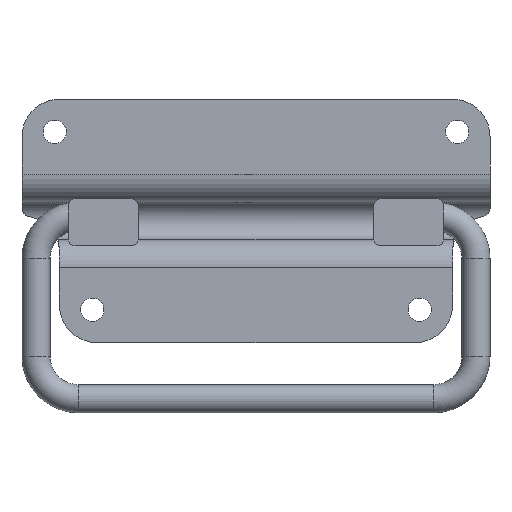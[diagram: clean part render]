
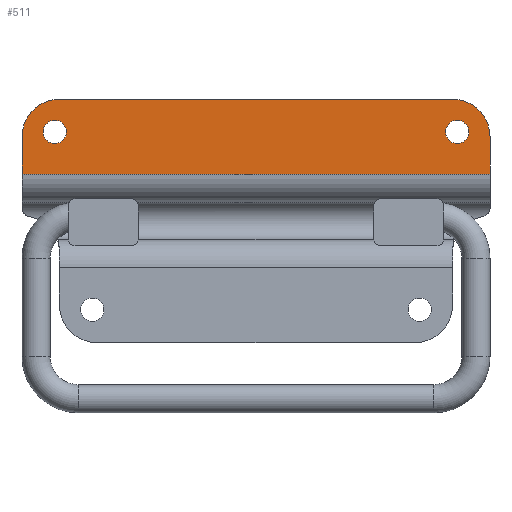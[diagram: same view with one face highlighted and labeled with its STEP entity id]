
A CAD part, front view. The second image highlights one B-rep face of the part: STEP entity #511.
In plain terms, the highlighted planar face has unit normal (0, -1, 0).
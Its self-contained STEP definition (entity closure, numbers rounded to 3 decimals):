
#13 = LINE ( 'NONE', #2613, #2935 ) ;
#26 = VERTEX_POINT ( 'NONE', #3641 ) ;
#53 = VERTEX_POINT ( 'NONE', #3338 ) ;
#81 = DIRECTION ( 'NONE',  ( 0., 0., -1. ) ) ;
#177 = ORIENTED_EDGE ( 'NONE', *, *, #2221, .T. ) ;
#213 = DIRECTION ( 'NONE',  ( 0., -1., 0. ) ) ;
#254 = VERTEX_POINT ( 'NONE', #2013 ) ;
#298 = CARTESIAN_POINT ( 'NONE',  ( -50., -1., 26. ) ) ;
#418 = ORIENTED_EDGE ( 'NONE', *, *, #3855, .F. ) ;
#468 = AXIS2_PLACEMENT_3D ( 'NONE', #679, #3145, #794 ) ;
#472 = CARTESIAN_POINT ( 'NONE',  ( -43., -1., 16.5 ) ) ;
#485 = VERTEX_POINT ( 'NONE', #780 ) ;
#511 = ADVANCED_FACE ( 'NONE', ( #3999, #2253, #581 ), #2598, .T. ) ;
#581 = FACE_OUTER_BOUND ( 'NONE', #1123, .T. ) ;
#678 = ORIENTED_EDGE ( 'NONE', *, *, #1857, .F. ) ;
#679 = CARTESIAN_POINT ( 'NONE',  ( -42., -1., 18. ) ) ;
#706 = CIRCLE ( 'NONE', #1888, 8. ) ;
#756 = ORIENTED_EDGE ( 'NONE', *, *, #2874, .F. ) ;
#758 = EDGE_CURVE ( 'NONE', #26, #3091, #706, .T. ) ;
#780 = CARTESIAN_POINT ( 'NONE',  ( 43., -1., 16.5 ) ) ;
#794 = DIRECTION ( 'NONE',  ( 0., 0., -1. ) ) ;
#816 = DIRECTION ( 'NONE',  ( 0., -1., 0. ) ) ;
#1009 = DIRECTION ( 'NONE',  ( 0., -1., 0. ) ) ;
#1080 = LINE ( 'NONE', #298, #1935 ) ;
#1123 = EDGE_LOOP ( 'NONE', ( #2334, #2709, #2922, #2764, #177, #1744 ) ) ;
#1250 = CARTESIAN_POINT ( 'NONE',  ( 43., -1., 19. ) ) ;
#1259 = DIRECTION ( 'NONE',  ( 0., 0., -1. ) ) ;
#1305 = DIRECTION ( 'NONE',  ( 0., 0., -1. ) ) ;
#1373 = DIRECTION ( 'NONE',  ( 0., 0., -1. ) ) ;
#1374 = EDGE_LOOP ( 'NONE', ( #678, #756 ) ) ;
#1441 = CARTESIAN_POINT ( 'NONE',  ( -43., -1., 19. ) ) ;
#1462 = CIRCLE ( 'NONE', #3593, 2.5 ) ;
#1572 = CIRCLE ( 'NONE', #3196, 2.5 ) ;
#1655 = EDGE_CURVE ( 'NONE', #2061, #3306, #1572, .T. ) ;
#1744 = ORIENTED_EDGE ( 'NONE', *, *, #3990, .T. ) ;
#1857 = EDGE_CURVE ( 'NONE', #4497, #485, #2621, .T. ) ;
#1888 = AXIS2_PLACEMENT_3D ( 'NONE', #3601, #816, #2131 ) ;
#1891 = EDGE_CURVE ( 'NONE', #26, #254, #4510, .T. ) ;
#1935 = VECTOR ( 'NONE', #3532, 1000. ) ;
#2013 = CARTESIAN_POINT ( 'NONE',  ( 50., -1., 10. ) ) ;
#2061 = VERTEX_POINT ( 'NONE', #3648 ) ;
#2073 = DIRECTION ( 'NONE',  ( 0., 0., -1. ) ) ;
#2074 = CARTESIAN_POINT ( 'NONE',  ( 43., -1., 21.5 ) ) ;
#2103 = VECTOR ( 'NONE', #1305, 1000. ) ;
#2131 = DIRECTION ( 'NONE',  ( 0., 0., -1. ) ) ;
#2152 = CARTESIAN_POINT ( 'NONE',  ( -43., -1., 19. ) ) ;
#2178 = CIRCLE ( 'NONE', #3051, 2.5 ) ;
#2221 = EDGE_CURVE ( 'NONE', #53, #4136, #3009, .T. ) ;
#2253 = FACE_BOUND ( 'NONE', #2416, .T. ) ;
#2298 = CARTESIAN_POINT ( 'NONE',  ( -50., -1., 26. ) ) ;
#2322 = DIRECTION ( 'NONE',  ( 0., -1., 0. ) ) ;
#2334 = ORIENTED_EDGE ( 'NONE', *, *, #1891, .F. ) ;
#2416 = EDGE_LOOP ( 'NONE', ( #3752, #418 ) ) ;
#2549 = CARTESIAN_POINT ( 'NONE',  ( -50., -1., 10. ) ) ;
#2575 = DIRECTION ( 'NONE',  ( 0., -1., 0. ) ) ;
#2598 = PLANE ( 'NONE',  #4144 ) ;
#2613 = CARTESIAN_POINT ( 'NONE',  ( -50., -1., 10. ) ) ;
#2621 = CIRCLE ( 'NONE', #2763, 2.5 ) ;
#2709 = ORIENTED_EDGE ( 'NONE', *, *, #758, .T. ) ;
#2763 = AXIS2_PLACEMENT_3D ( 'NONE', #1250, #213, #3058 ) ;
#2764 = ORIENTED_EDGE ( 'NONE', *, *, #2814, .T. ) ;
#2814 = EDGE_CURVE ( 'NONE', #4317, #53, #3576, .T. ) ;
#2870 = DIRECTION ( 'NONE',  ( 0., -1., 0. ) ) ;
#2874 = EDGE_CURVE ( 'NONE', #485, #4497, #2178, .T. ) ;
#2922 = ORIENTED_EDGE ( 'NONE', *, *, #3201, .F. ) ;
#2935 = VECTOR ( 'NONE', #3213, 1000. ) ;
#3009 = LINE ( 'NONE', #2298, #2103 ) ;
#3051 = AXIS2_PLACEMENT_3D ( 'NONE', #3911, #2870, #4575 ) ;
#3058 = DIRECTION ( 'NONE',  ( 0., 0., -1. ) ) ;
#3091 = VERTEX_POINT ( 'NONE', #4206 ) ;
#3145 = DIRECTION ( 'NONE',  ( 0., -1., 0. ) ) ;
#3196 = AXIS2_PLACEMENT_3D ( 'NONE', #2152, #2575, #81 ) ;
#3201 = EDGE_CURVE ( 'NONE', #4317, #3091, #1080, .T. ) ;
#3213 = DIRECTION ( 'NONE',  ( 1., 0., 0. ) ) ;
#3306 = VERTEX_POINT ( 'NONE', #472 ) ;
#3338 = CARTESIAN_POINT ( 'NONE',  ( -50., -1., 18. ) ) ;
#3532 = DIRECTION ( 'NONE',  ( 1., 0., 0. ) ) ;
#3576 = CIRCLE ( 'NONE', #468, 8. ) ;
#3593 = AXIS2_PLACEMENT_3D ( 'NONE', #1441, #1009, #1373 ) ;
#3601 = CARTESIAN_POINT ( 'NONE',  ( 42., -1., 18. ) ) ;
#3641 = CARTESIAN_POINT ( 'NONE',  ( 50., -1., 18. ) ) ;
#3648 = CARTESIAN_POINT ( 'NONE',  ( -43., -1., 21.5 ) ) ;
#3752 = ORIENTED_EDGE ( 'NONE', *, *, #1655, .F. ) ;
#3855 = EDGE_CURVE ( 'NONE', #3306, #2061, #1462, .T. ) ;
#3911 = CARTESIAN_POINT ( 'NONE',  ( 43., -1., 19. ) ) ;
#3938 = VECTOR ( 'NONE', #2073, 1000. ) ;
#3990 = EDGE_CURVE ( 'NONE', #4136, #254, #13, .T. ) ;
#3999 = FACE_BOUND ( 'NONE', #1374, .T. ) ;
#4009 = CARTESIAN_POINT ( 'NONE',  ( -42., -1., 26. ) ) ;
#4089 = CARTESIAN_POINT ( 'NONE',  ( -50., -1., 26. ) ) ;
#4136 = VERTEX_POINT ( 'NONE', #2549 ) ;
#4144 = AXIS2_PLACEMENT_3D ( 'NONE', #4089, #2322, #1259 ) ;
#4173 = CARTESIAN_POINT ( 'NONE',  ( 50., -1., 26. ) ) ;
#4206 = CARTESIAN_POINT ( 'NONE',  ( 42., -1., 26. ) ) ;
#4317 = VERTEX_POINT ( 'NONE', #4009 ) ;
#4497 = VERTEX_POINT ( 'NONE', #2074 ) ;
#4510 = LINE ( 'NONE', #4173, #3938 ) ;
#4575 = DIRECTION ( 'NONE',  ( 0., 0., -1. ) ) ;
